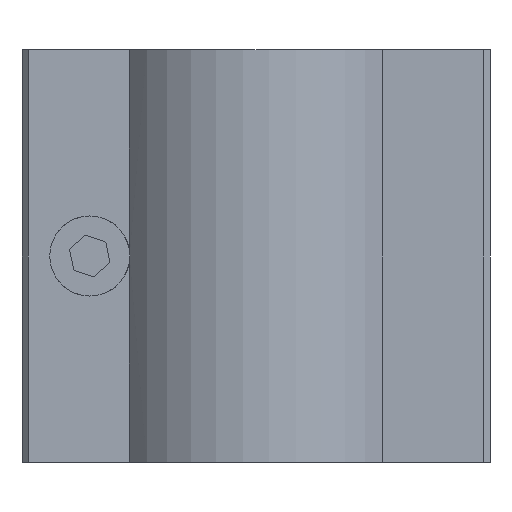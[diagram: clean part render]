
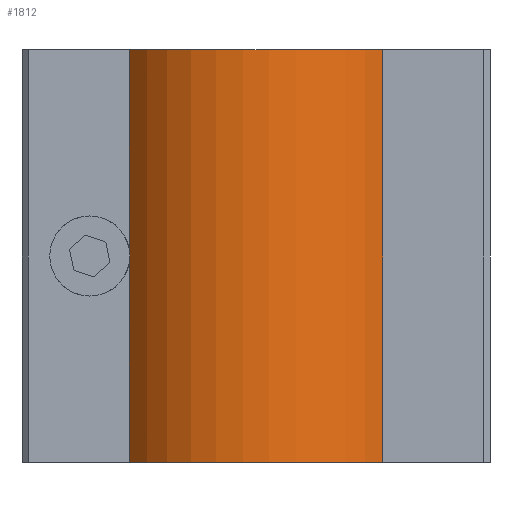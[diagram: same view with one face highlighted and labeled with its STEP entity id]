
A CAD part, front view. The second image highlights one B-rep face of the part: STEP entity #1812.
In plain terms, the highlighted cylindrical face has radius 25.5 mm (diameter 51 mm), a partial arc.
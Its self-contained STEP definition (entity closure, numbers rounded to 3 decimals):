
#679=CARTESIAN_POINT('',(-21.33,-10.802,28.249));
#680=VERTEX_POINT('',#679);
#688=CARTESIAN_POINT('',(-21.209,-10.967,29.5));
#689=VERTEX_POINT('',#688);
#690=CARTESIAN_POINT('',(-21.209,-10.967,29.5));
#691=CARTESIAN_POINT('',(-21.209,-10.967,29.087));
#692=CARTESIAN_POINT('',(-21.25,-10.912,28.66));
#693=CARTESIAN_POINT('',(-21.33,-10.802,28.249));
#694=B_SPLINE_CURVE_WITH_KNOTS('',3,(#690,#691,#692,#693),.UNSPECIFIED.,.F.,.U.,(4,4),(1.355,1.479),.UNSPECIFIED.);
#695=EDGE_CURVE('',#689,#680,#694,.T.);
#929=CARTESIAN_POINT('',(-21.33,-10.802,30.751));
#930=VERTEX_POINT('',#929);
#931=CARTESIAN_POINT('',(-21.33,-10.802,30.751));
#932=CARTESIAN_POINT('',(-21.25,-10.912,30.34));
#933=CARTESIAN_POINT('',(-21.209,-10.967,29.913));
#934=CARTESIAN_POINT('',(-21.209,-10.967,29.5));
#935=B_SPLINE_CURVE_WITH_KNOTS('',3,(#931,#932,#933,#934),.UNSPECIFIED.,.F.,.U.,(4,4),(1.231,1.355),.UNSPECIFIED.);
#936=EDGE_CURVE('',#930,#689,#935,.T.);
#973=CARTESIAN_POINT('',(-21.33,-10.802,63.));
#974=VERTEX_POINT('',#973);
#975=CARTESIAN_POINT('',(-21.33,-10.802,63.));
#976=DIRECTION('',(0.0,0.0,-1.0));
#977=VECTOR('',#976,32.249);
#978=LINE('',#975,#977);
#979=EDGE_CURVE('',#974,#930,#978,.T.);
#997=CARTESIAN_POINT('',(-21.33,-10.802,-4.));
#998=VERTEX_POINT('',#997);
#1005=CARTESIAN_POINT('',(-21.33,-10.802,28.249));
#1006=DIRECTION('',(0.0,0.0,-1.0));
#1007=VECTOR('',#1006,32.249);
#1008=LINE('',#1005,#1007);
#1009=EDGE_CURVE('',#680,#998,#1008,.T.);
#1163=CARTESIAN_POINT('',(19.913,-10.802,63.));
#1164=VERTEX_POINT('',#1163);
#1165=CARTESIAN_POINT('',(-0.709,4.198,63.));
#1166=DIRECTION('',(0.0,0.0,-1.0));
#1167=DIRECTION('',(0.809,0.588,0.0));
#1168=AXIS2_PLACEMENT_3D('',#1165,#1166,#1167);
#1169=CIRCLE('',#1168,25.5);
#1170=EDGE_CURVE('',#1164,#974,#1169,.T.);
#1716=CARTESIAN_POINT('',(19.913,-10.802,-4.));
#1717=VERTEX_POINT('',#1716);
#1724=CARTESIAN_POINT('',(-0.709,4.198,-4.));
#1725=DIRECTION('',(0.0,0.0,1.0));
#1726=DIRECTION('',(0.809,0.588,0.0));
#1727=AXIS2_PLACEMENT_3D('',#1724,#1725,#1726);
#1728=CIRCLE('',#1727,25.5);
#1729=EDGE_CURVE('',#998,#1717,#1728,.T.);
#1787=CARTESIAN_POINT('',(19.913,-10.802,63.));
#1788=DIRECTION('',(0.0,0.0,-1.0));
#1789=VECTOR('',#1788,67.0);
#1790=LINE('',#1787,#1789);
#1791=EDGE_CURVE('',#1164,#1717,#1790,.T.);
#1798=CARTESIAN_POINT('',(-0.709,4.198,29.5));
#1799=DIRECTION('',(0.0,0.0,1.0));
#1800=DIRECTION('',(0.809,0.588,0.0));
#1801=AXIS2_PLACEMENT_3D('',#1798,#1799,#1800);
#1802=CYLINDRICAL_SURFACE('',#1801,25.5);
#1803=ORIENTED_EDGE('',*,*,#936,.T.);
#1804=ORIENTED_EDGE('',*,*,#695,.T.);
#1805=ORIENTED_EDGE('',*,*,#1009,.T.);
#1806=ORIENTED_EDGE('',*,*,#1729,.T.);
#1807=ORIENTED_EDGE('',*,*,#1791,.F.);
#1808=ORIENTED_EDGE('',*,*,#1170,.T.);
#1809=ORIENTED_EDGE('',*,*,#979,.T.);
#1810=EDGE_LOOP('',(#1803,#1804,#1805,#1806,#1807,#1808,#1809));
#1811=FACE_OUTER_BOUND('',#1810,.T.);
#1812=ADVANCED_FACE('',(#1811),#1802,.T.);
